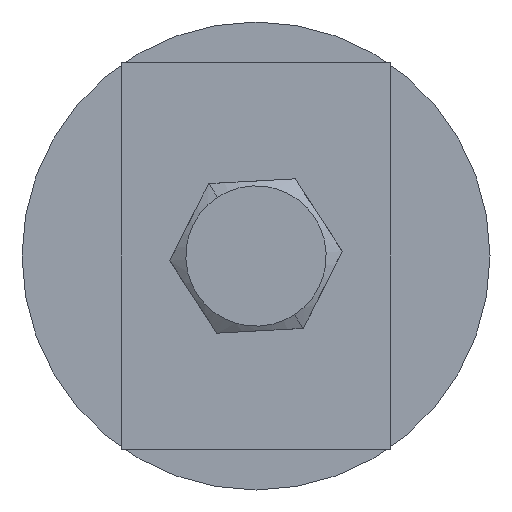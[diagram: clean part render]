
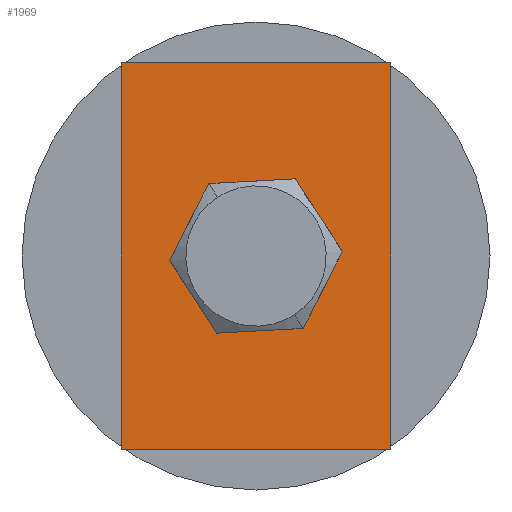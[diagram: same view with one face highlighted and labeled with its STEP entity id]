
A CAD part, front view. The second image highlights one B-rep face of the part: STEP entity #1969.
In plain terms, the highlighted planar face has unit normal (0, -1, 0).
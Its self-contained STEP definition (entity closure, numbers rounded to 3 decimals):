
#51 = EDGE_LOOP ( 'NONE', ( #112, #114 ) ) ;
#62 = EDGE_LOOP ( 'NONE', ( #111, #115, #116, #113 ) ) ;
#111 = ORIENTED_EDGE ( 'NONE', *, *, #1913, .F. ) ;
#112 = ORIENTED_EDGE ( 'NONE', *, *, #1925, .T. ) ;
#113 = ORIENTED_EDGE ( 'NONE', *, *, #1917, .F. ) ;
#114 = ORIENTED_EDGE ( 'NONE', *, *, #1909, .T. ) ;
#115 = ORIENTED_EDGE ( 'NONE', *, *, #1922, .F. ) ;
#116 = ORIENTED_EDGE ( 'NONE', *, *, #1920, .F. ) ;
#164 = VERTEX_POINT ( 'NONE', #414 ) ;
#167 = VERTEX_POINT ( 'NONE', #417 ) ;
#173 = VERTEX_POINT ( 'NONE', #423 ) ;
#185 = VERTEX_POINT ( 'NONE', #435 ) ;
#189 = VERTEX_POINT ( 'NONE', #439 ) ;
#192 = VERTEX_POINT ( 'NONE', #442 ) ;
#414 = CARTESIAN_POINT ( 'NONE',  ( -11.5, 0., 16.5 ) ) ;
#417 = CARTESIAN_POINT ( 'NONE',  ( 11.5, 0., -16.5 ) ) ;
#423 = CARTESIAN_POINT ( 'NONE',  ( 0., 0., 3.4 ) ) ;
#435 = CARTESIAN_POINT ( 'NONE',  ( -11.5, 0., -16.5 ) ) ;
#439 = CARTESIAN_POINT ( 'NONE',  ( 0., 0., -3.4 ) ) ;
#442 = CARTESIAN_POINT ( 'NONE',  ( 11.5, 0., 16.5 ) ) ;
#477 = CARTESIAN_POINT ( 'NONE',  ( 0., 0., 0. ) ) ;
#481 = DIRECTION ( 'NONE',  ( 0., 1., 0. ) ) ;
#482 = DIRECTION ( 'NONE',  ( 0., 0., 1. ) ) ;
#493 = LINE ( 'NONE', #494, #1759 ) ;
#494 = CARTESIAN_POINT ( 'NONE',  ( 11.5, 0., 16.5 ) ) ;
#495 = DIRECTION ( 'NONE',  ( 0., 0., -1. ) ) ;
#505 = LINE ( 'NONE', #506, #1763 ) ;
#506 = CARTESIAN_POINT ( 'NONE',  ( -11.5, 0., -16.5 ) ) ;
#507 = DIRECTION ( 'NONE',  ( -1., 0., 0. ) ) ;
#514 = LINE ( 'NONE', #515, #1767 ) ;
#515 = CARTESIAN_POINT ( 'NONE',  ( -11.5, 0., 16.5 ) ) ;
#516 = DIRECTION ( 'NONE',  ( 0., 0., 1. ) ) ;
#520 = LINE ( 'NONE', #521, #1769 ) ;
#521 = CARTESIAN_POINT ( 'NONE',  ( -11.5, 0., 16.5 ) ) ;
#522 = DIRECTION ( 'NONE',  ( 1., 0., 0. ) ) ;
#528 = CARTESIAN_POINT ( 'NONE',  ( 0., 0., 0. ) ) ;
#529 = DIRECTION ( 'NONE',  ( 0., 1., 0. ) ) ;
#530 = DIRECTION ( 'NONE',  ( 0., 0., 1. ) ) ;
#673 = PLANE ( 'NONE',  #1855 ) ;
#674 = CARTESIAN_POINT ( 'NONE',  ( 11.5, 0., -16.5 ) ) ;
#675 = DIRECTION ( 'NONE',  ( 0., -1., 0. ) ) ;
#676 = DIRECTION ( 'NONE',  ( 0., 0., -1. ) ) ;
#1753 = AXIS2_PLACEMENT_3D ( 'NONE', #528, #529, #530 ) ;
#1754 = AXIS2_PLACEMENT_3D ( 'NONE', #477, #481, #482 ) ;
#1759 = VECTOR ( 'NONE', #495, 1000. ) ;
#1763 = VECTOR ( 'NONE', #507, 1000. ) ;
#1767 = VECTOR ( 'NONE', #516, 1000. ) ;
#1769 = VECTOR ( 'NONE', #522, 1000. ) ;
#1848 = FACE_OUTER_BOUND ( 'NONE', #62, .T. ) ;
#1850 = FACE_BOUND ( 'NONE', #51, .T. ) ;
#1855 = AXIS2_PLACEMENT_3D ( 'NONE', #674, #675, #676 ) ;
#1909 = EDGE_CURVE ( 'NONE', #189, #173, #2094, .T. ) ;
#1913 = EDGE_CURVE ( 'NONE', #192, #167, #493, .T. ) ;
#1917 = EDGE_CURVE ( 'NONE', #167, #185, #505, .T. ) ;
#1920 = EDGE_CURVE ( 'NONE', #185, #164, #514, .T. ) ;
#1922 = EDGE_CURVE ( 'NONE', #164, #192, #520, .T. ) ;
#1925 = EDGE_CURVE ( 'NONE', #173, #189, #2095, .T. ) ;
#1969 = ADVANCED_FACE ( 'NONE', ( #1850, #1848 ), #673, .T. ) ;
#2094 = CIRCLE ( 'NONE', #1754, 3.4 ) ;
#2095 = CIRCLE ( 'NONE', #1753, 3.4 ) ;
